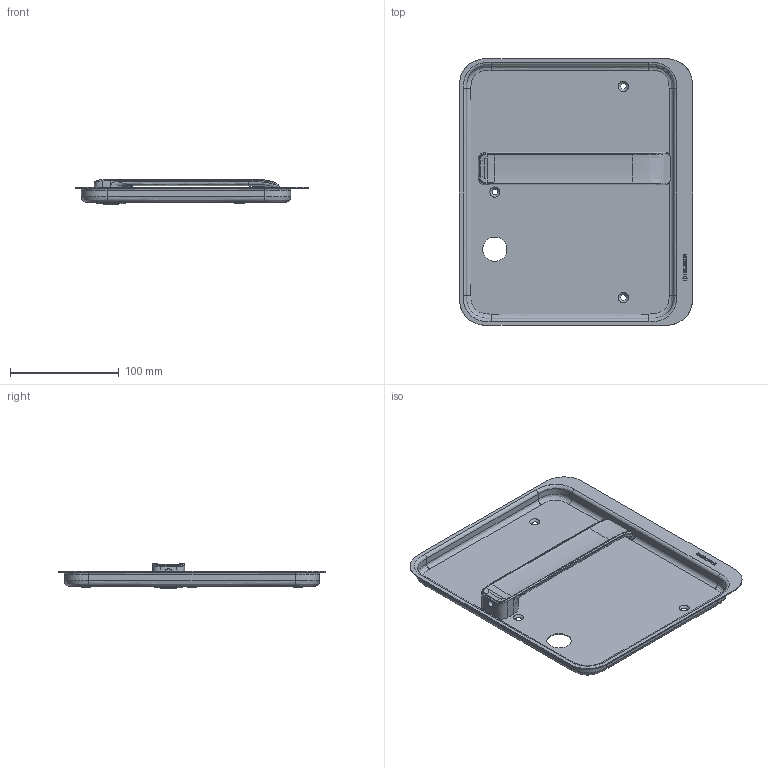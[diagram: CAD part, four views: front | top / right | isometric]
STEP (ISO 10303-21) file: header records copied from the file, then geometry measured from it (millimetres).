
FILE_DESCRIPTION(/* description */ (''),/* implementation_level */ '2;1');
FILE_NAME(/* name */ 'C:\ADSK_DMS_WS\Designs\Vorschläge\Loc Schalen\Muschel Serie 9\S9.13.D3\Heusser-Muschel S9.13.D3.274R.stp',/* time_stamp */ '2020-10-13T16:28:49+02:00',/* author */ ('gm'),/* organization */ (''),/* preprocessor_version */ 'ST-DEVELOPER v16.5',/* originating_system */ 'Autodesk Inventor 2017',/* authorisation */ '');
FILE_SCHEMA (('AUTOMOTIVE_DESIGN { 1 0 10303 214 3 1 1 }'));
Length unit declared in the file: millimetre
Products named in the file (1): S9.13.D3.0R
Bounding box: 214 x 245 x 23 mm (x, y, z)
Volume: 95570.3 mm3; surface area: 137051 mm2
Topology: 1 solids, 2 shells, 328 faces, 846 edges, 548 vertices
Faces by surface type: bspline 160, plane 131, cylinder 21, cone 16
Full cylindrical faces by diameter (mm): 1.7 x2, 14.2 x1, 16 x3, 18 x1, 19 x1, 19.1 x1, 22.3 x1, 23 x1, 23.2 x1, 24 x1, 25 x1, 26 x1, 28 x1
Entity records: 18347 total; most frequent: CARTESIAN_POINT 11076, ORIENTED_EDGE 1616, DIRECTION 959, EDGE_CURVE 808, VERTEX_POINT 542, LINE 411, VECTOR 411, EDGE_LOOP 406
